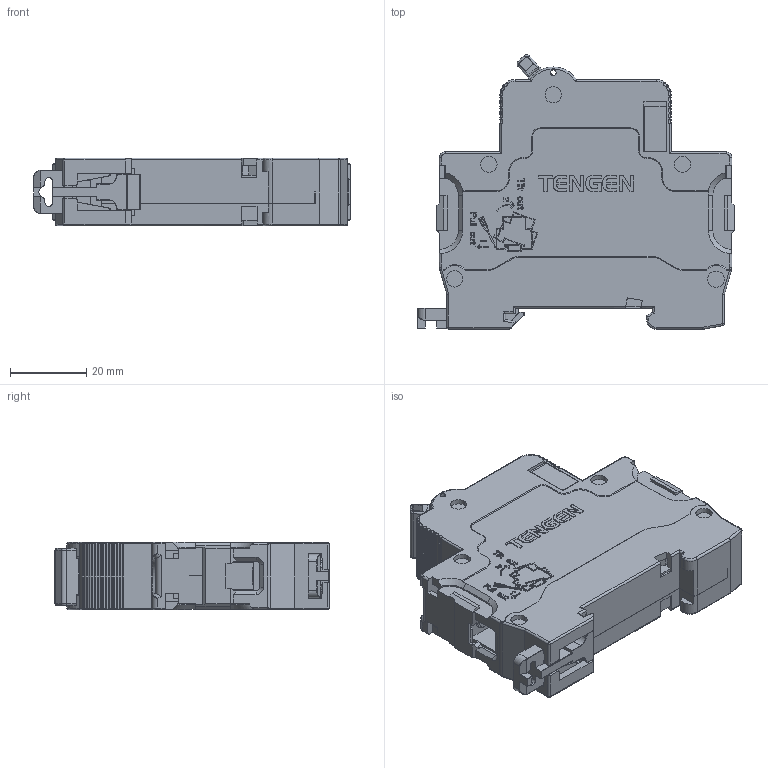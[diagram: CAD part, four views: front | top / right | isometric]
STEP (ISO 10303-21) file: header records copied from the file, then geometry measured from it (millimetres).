
FILE_DESCRIPTION((''),'2;1');
FILE_NAME('1PP','2021-03-25T',('chenzhiqiang'),(''),'PRO/ENGINEER BY PARAMETRIC TECHNOLOGY CORPORATION, 2017170','PRO/ENGINEER BY PARAMETRIC TECHNOLOGY CORPORATION, 2017170','');
FILE_SCHEMA(('CONFIG_CONTROL_DESIGN'));
Products named in the file (1): 1PP
Bounding box: 83.15 x 72 x 17.8 mm (x, y, z)
Volume: 67118.5 mm3; surface area: 23739.6 mm2
Topology: 1 solids, 1 shells, 3049 faces, 8239 edges, 5286 vertices
Faces by surface type: plane 2085, cylinder 524, torus 167, bspline 128, extrusion 78, cone 56, sphere 11
Entity records: 103758 total; most frequent: CARTESIAN_POINT 28160, ORIENTED_EDGE 16478, DIRECTION 14463, EDGE_CURVE 8239, VECTOR 6377, LINE 6299, VERTEX_POINT 5286, AXIS2_PLACEMENT_3D 4043
